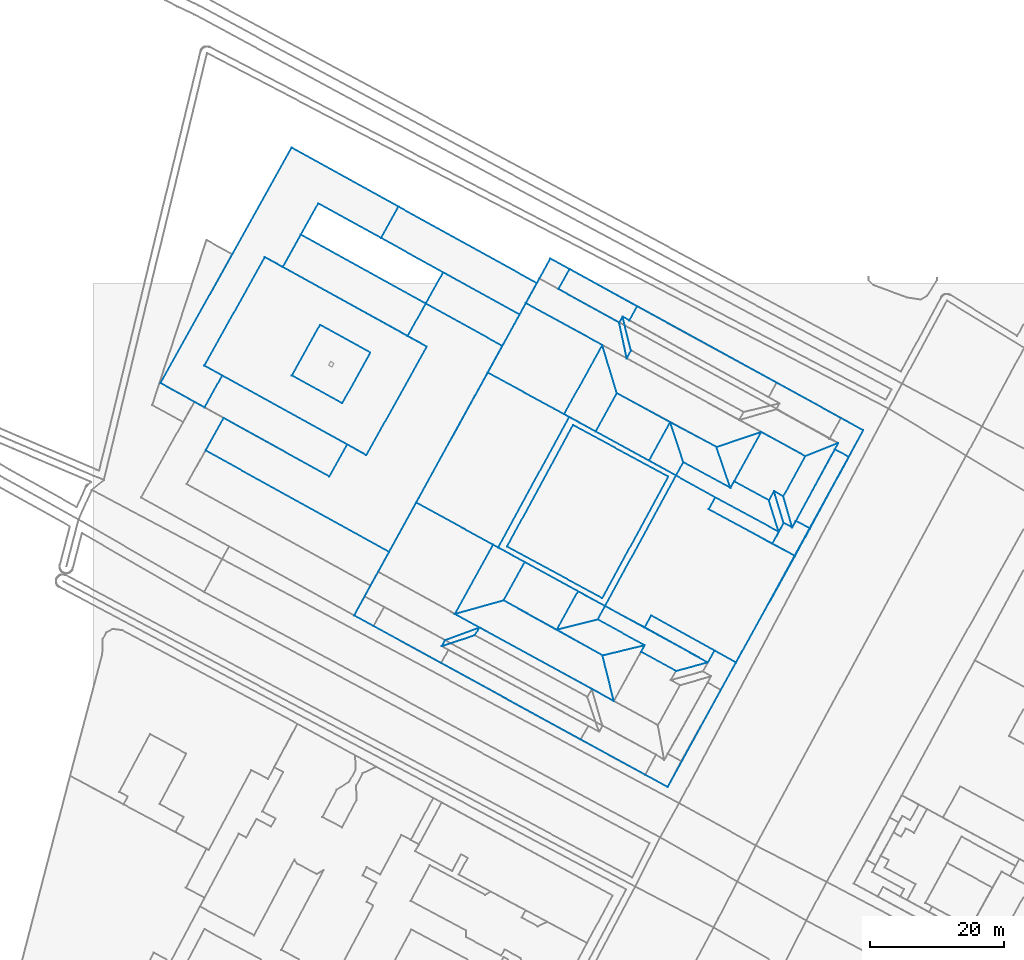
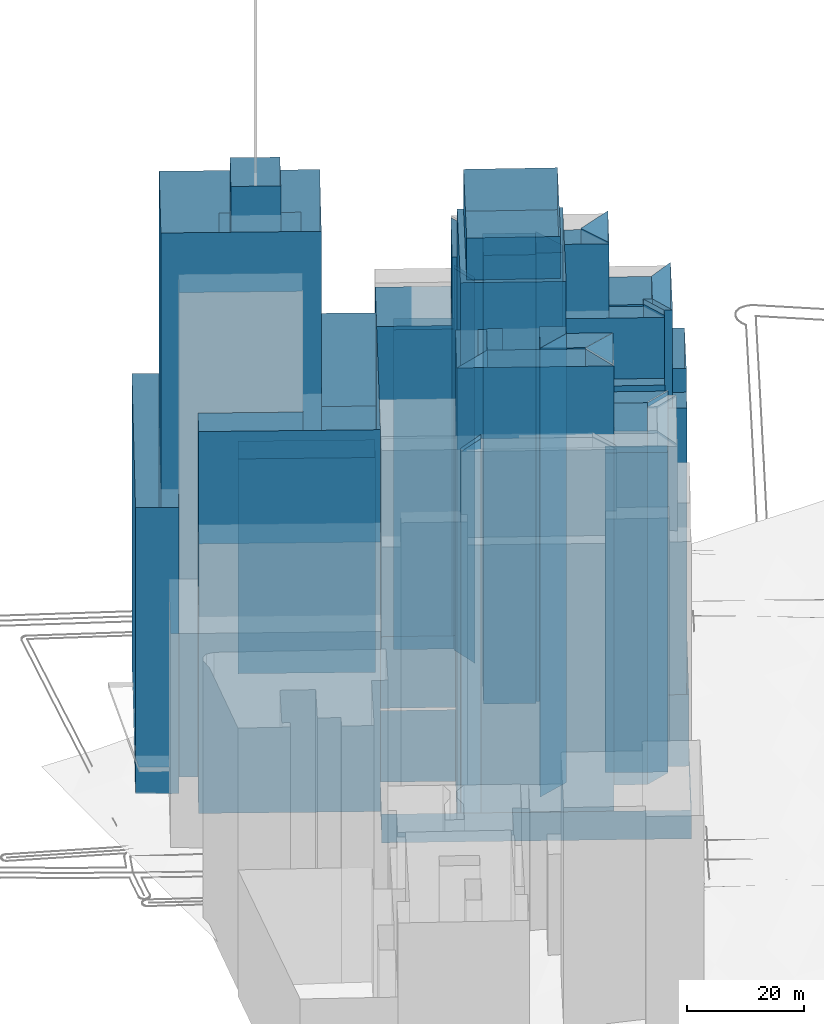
# Not in any storey, part 30 of 80: 36 walls.
"""IFC4 building model written with IfcOpenShell, lengths in metres."""

from ifc_helpers import new_model, si_unit, frame, origin_with_axes, place, context, subcontext, project, spatial, polygons, element, save


model = new_model("IFC4")

# Units and contexts
model_context = context("Model", 3, precision=1e-05, world=origin_with_axes())
body_context = subcontext(model_context, "Body", "Model", "MODEL_VIEW")
ifc_project = project(units=[si_unit("AREAUNIT", "SQUARE_METRE"), si_unit("LENGTHUNIT", "METRE")], contexts=[model_context])

# Sites, building
site_1_placement = place(None, origin_with_axes())
site_1 = spatial("IfcSite", under=ifc_project, at=site_1_placement, Name="Topoexport Site")
site_2_placement = place(site_1_placement, origin_with_axes())
site_2 = spatial("IfcSite", under=site_1, at=site_2_placement, Name="TPX_BATIMENTS")
building_1_placement = place(site_2_placement, frame((75.1201709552, 329.5761447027, 23.8507407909), z_axis=(0.0, 0.0, 1.0), x_axis=(1.0, 0.0, 0.0)))
building_1 = spatial("IfcBuilding", under=site_2, at=building_1_placement, Name="Batiment 149", CompositionType="ELEMENT")

# Wall
wall_1_placement = place(None, frame((75.1201709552, 329.5761447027, 23.8507407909), z_axis=(0.0, 0.0, 1.0), x_axis=(1.0, 0.0, 0.0)))
element("IfcWall", 1, at=wall_1_placement, inside=building_1, Name="Mur 0", context=body_context, shape_type="Tessellation", body=[
    polygons([(0.0, 0.0, 0.0), (7.0088017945, -3.8488115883, 0.0), (6.4714030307, -4.8209481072, 0.0), (11.6537066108, -7.6695578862, 0.0), (16.4083748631, -6.4041945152, 0.0), (1.0997322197, 1.9778684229, 0.0), (0.0, 0.0, 80.0), (7.0088017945, -3.8488115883, 80.0), (6.4714030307, -4.8209481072, 80.0), (11.6537066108, -7.6695578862, 80.0), (16.4083748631, -6.4041945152, 80.0), (1.0997322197, 1.9778684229, 80.0)], [[[8, 7, 2]], [[2, 7, 1]], [[9, 8, 3]], [[3, 8, 2]], [[10, 9, 4]], [[4, 9, 3]], [[11, 10, 5]], [[5, 10, 4]], [[7, 12, 1]], [[1, 12, 6]], [[12, 11, 6]], [[6, 11, 5]]]),
])

# Building
building_2_placement = place(site_2_placement, frame((53.8808145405, 330.3842681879, 23.5017044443), z_axis=(0.0, 0.0, 1.0), x_axis=(1.0, 0.0, 0.0)))
building_2 = spatial("IfcBuilding", under=site_2, at=building_2_placement, Name="Batiment 150", CompositionType="ELEMENT")

# Wall
wall_2_placement = place(None, frame((53.8808145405, 330.3842681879, 23.5017044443), z_axis=(0.0, 0.0, 1.0), x_axis=(1.0, 0.0, 0.0)))
element("IfcWall", 2, at=wall_2_placement, inside=building_2, Name="Mur 0", context=body_context, shape_type="Tessellation", body=[
    polygons([(0.0, 0.0, 0.0), (20.3973031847, -11.1652006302, 0.0), (23.6510455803, -12.9481890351, 0.0), (21.976830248, -6.1619484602, 0.0), (7.2275813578, 2.0268001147, 0.0), (0.0, 0.0, 94.0), (20.3973031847, -11.1652006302, 94.0), (23.6510455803, -12.9481890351, 94.0), (21.976830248, -6.1619484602, 94.0), (7.2275813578, 2.0268001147, 94.0)], [[[7, 6, 2]], [[2, 6, 1]], [[8, 7, 3]], [[3, 7, 2]], [[9, 8, 4]], [[4, 8, 3]], [[6, 10, 1]], [[1, 10, 5]], [[10, 9, 5]], [[5, 9, 4]]]),
])

# Building
building_3_placement = place(site_2_placement, frame((95.4278204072, 350.1179975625, 24.1757851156), z_axis=(0.0, 0.0, 1.0), x_axis=(1.0, 0.0, 0.0)))
building_3 = spatial("IfcBuilding", under=site_2, at=building_3_placement, Name="Batiment 277", CompositionType="ELEMENT")

# Wall
wall_3_placement = place(None, frame((95.4278204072, 350.1179975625, 24.1757851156), z_axis=(0.0, 0.0, 1.0), x_axis=(1.0, 0.0, 0.0)))
element("IfcWall", 3, at=wall_3_placement, inside=building_3, Name="Mur 0", context=body_context, shape_type="Tessellation", body=[
    polygons([(0.0, 0.0, 0.0), (5.1904741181, -2.8263004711, 0.0), (5.942800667, -1.4630871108, 0.0), (7.3274473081, -2.2130597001, 0.0), (10.6093444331, 3.7536652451, 0.0), (4.0340988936, 7.3410355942, 0.0), (0.0, 0.0, 80.0), (5.1904741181, -2.8263004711, 80.0), (5.942800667, -1.4630871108, 80.0), (7.3274473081, -2.2130597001, 80.0), (10.6093444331, 3.7536652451, 80.0), (4.0340988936, 7.3410355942, 80.0)], [[[8, 7, 2]], [[2, 7, 1]], [[9, 8, 3]], [[3, 8, 2]], [[10, 9, 4]], [[4, 9, 3]], [[11, 10, 5]], [[5, 10, 4]], [[7, 12, 1]], [[1, 12, 6]], [[12, 11, 6]], [[6, 11, 5]]]),
])

# Building
building_4_placement = place(site_2_placement, frame((100.6182945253, 347.2916970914, 24.2468793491), z_axis=(0.0, 0.0, 1.0), x_axis=(1.0, 0.0, 0.0)))
building_4 = spatial("IfcBuilding", under=site_2, at=building_4_placement, Name="Batiment 278", CompositionType="ELEMENT")

# Wall
wall_4_placement = place(None, frame((100.6182945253, 347.2916970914, 24.2468793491), z_axis=(0.0, 0.0, 1.0), x_axis=(1.0, 0.0, 0.0)))
element("IfcWall", 4, at=wall_4_placement, inside=building_4, Name="Mur 0", context=body_context, shape_type="Tessellation", body=[
    polygons([(0.0, 0.0, 0.0), (1.4724916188, -4.6791504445, 0.0), (2.1913155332, -3.3385306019, 0.0), (0.7523265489, 1.3632133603, 0.0), (0.0, 0.0, 80.0), (1.4724916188, -4.6791504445, 80.0), (2.1913155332, -3.3385306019, 80.0), (0.7523265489, 1.3632133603, 80.0)], [[[6, 5, 2]], [[2, 5, 1]], [[7, 6, 3]], [[3, 6, 2]], [[5, 8, 1]], [[1, 8, 4]], [[8, 7, 4]], [[4, 7, 3]]]),
])

# Building
building_5_placement = place(site_2_placement, frame((101.3706210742, 348.6549104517, 24.232721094), z_axis=(0.0, 0.0, 1.0), x_axis=(1.0, 0.0, 0.0)))
building_5 = spatial("IfcBuilding", under=site_2, at=building_5_placement, Name="Batiment 279", CompositionType="ELEMENT")

# Wall
wall_5_placement = place(None, frame((101.3706210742, 348.6549104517, 24.232721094), z_axis=(0.0, 0.0, 1.0), x_axis=(1.0, 0.0, 0.0)))
element("IfcWall", 5, at=wall_5_placement, inside=building_5, Name="Mur 0", context=body_context, shape_type="Tessellation", body=[
    polygons([(0.0, 0.0, 0.0), (1.4389889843, -4.7017439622, 0.0), (2.7214517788, -5.3751874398, 0.0), (1.3846466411, -0.7499725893, 0.0), (0.0, 0.0, 80.0), (1.4389889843, -4.7017439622, 80.0), (2.7214517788, -5.3751874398, 80.0), (1.3846466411, -0.7499725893, 80.0)], [[[6, 5, 2]], [[2, 5, 1]], [[7, 6, 3]], [[3, 6, 2]], [[5, 8, 1]], [[1, 8, 4]], [[8, 7, 4]], [[4, 7, 3]]]),
])

# Building
building_6_placement = place(site_2_placement, frame((104.621027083, 344.2517632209, 24.2058781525), z_axis=(0.0, 0.0, 1.0), x_axis=(1.0, 0.0, 0.0)))
building_6 = spatial("IfcBuilding", under=site_2, at=building_6_placement, Name="Batiment 280", CompositionType="ELEMENT")

# Wall
wall_6_placement = place(None, frame((104.621027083, 344.2517632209, 24.2058781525), z_axis=(0.0, 0.0, 1.0), x_axis=(1.0, 0.0, 0.0)))
element("IfcWall", 6, at=wall_6_placement, inside=building_6, Name="Mur 0", context=body_context, shape_type="Tessellation", body=[
    polygons([(0.0, 0.0, 0.0), (2.0982656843, -1.14136393, 0.0), (7.8835058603, 9.5062875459, 0.0), (5.7938113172, 10.6366471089, 0.0), (0.0, 0.0, 67.0), (2.0982656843, -1.14136393, 67.0), (7.8835058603, 9.5062875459, 67.0), (5.7938113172, 10.6366471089, 67.0)], [[[6, 5, 2]], [[2, 5, 1]], [[7, 6, 3]], [[3, 6, 2]], [[5, 8, 1]], [[1, 8, 4]], [[8, 7, 4]], [[4, 7, 3]]]),
])

# Building
building_7_placement = place(site_2_placement, frame((102.7552677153, 347.9049378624, 24.232721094), z_axis=(0.0, 0.0, 1.0), x_axis=(1.0, 0.0, 0.0)))
building_7 = spatial("IfcBuilding", under=site_2, at=building_7_placement, Name="Batiment 281", CompositionType="ELEMENT")

# Wall
wall_7_placement = place(None, frame((102.7552677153, 347.9049378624, 24.232721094), z_axis=(0.0, 0.0, 1.0), x_axis=(1.0, 0.0, 0.0)))
element("IfcWall", 7, at=wall_7_placement, inside=building_7, Name="Mur 0", context=body_context, shape_type="Tessellation", body=[
    polygons([(0.0, 0.0, 0.0), (1.3368051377, -4.6252148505, 0.0), (8.1803409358, 7.9332136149, 0.0), (3.281897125, 5.9667249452, 0.0), (0.0, 0.0, 80.0), (1.3368051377, -4.6252148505, 80.0), (8.1803409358, 7.9332136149, 80.0), (3.281897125, 5.9667249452, 80.0)], [[[6, 5, 2]], [[2, 5, 1]], [[7, 6, 3]], [[3, 6, 2]], [[5, 8, 1]], [[1, 8, 4]], [[8, 7, 4]], [[4, 7, 3]]]),
])

# Building
building_8_placement = place(site_2_placement, frame((101.1237847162, 340.8360563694, 24.2058781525), z_axis=(0.0, 0.0, 1.0), x_axis=(1.0, 0.0, 0.0)))
building_8 = spatial("IfcBuilding", under=site_2, at=building_8_placement, Name="Batiment 283", CompositionType="ELEMENT")

# Wall
wall_8_placement = place(None, frame((101.1237847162, 340.8360563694, 24.2058781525), z_axis=(0.0, 0.0, 1.0), x_axis=(1.0, 0.0, 0.0)))
element("IfcWall", 8, at=wall_8_placement, inside=building_8, Name="Mur 0", context=body_context, shape_type="Tessellation", body=[
    polygons([(0.0, 0.0, 0.0), (3.3638492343, -1.8150044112, 0.0), (5.5955080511, 2.2743429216, 0.0), (3.4972423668, 3.4157068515, 0.0), (2.9682881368, 2.4436666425, 0.0), (1.6858253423, 3.1171101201, 0.0), (0.0, 0.0, 62.0), (3.3638492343, -1.8150044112, 62.0), (5.5955080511, 2.2743429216, 62.0), (3.4972423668, 3.4157068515, 62.0), (2.9682881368, 2.4436666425, 62.0), (1.6858253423, 3.1171101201, 62.0)], [[[8, 7, 2]], [[2, 7, 1]], [[9, 8, 3]], [[3, 8, 2]], [[10, 9, 4]], [[4, 9, 3]], [[11, 10, 5]], [[5, 10, 4]], [[7, 12, 1]], [[1, 12, 6]], [[12, 11, 6]], [[6, 11, 5]]]),
])

# Building
building_9_placement = place(site_2_placement, frame((76.2199031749, 331.5540131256, 23.8161532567), z_axis=(0.0, 0.0, 1.0), x_axis=(1.0, 0.0, 0.0)))
building_9 = spatial("IfcBuilding", under=site_2, at=building_9_placement, Name="Batiment 284", CompositionType="ELEMENT")

# Wall
wall_9_placement = place(None, frame((76.2199031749, 331.5540131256, 23.8161532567), z_axis=(0.0, 0.0, 1.0), x_axis=(1.0, 0.0, 0.0)))
element("IfcWall", 9, at=wall_9_placement, inside=building_9, Name="Mur 0", context=body_context, shape_type="Tessellation", body=[
    polygons([(0.0, 0.0, 0.0), (5.886443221, -3.1512997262, 0.0), (6.870460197, -1.3857167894, 0.0), (19.4873212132, -8.4001453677, 0.0), (28.2677307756, 7.4670388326, 0.0), (15.4237759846, 14.4122011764, 0.0), (16.3907789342, 16.1886902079, 0.0), (10.5539558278, 19.4293756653, 0.0), (0.0, 0.0, 15.0), (5.886443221, -3.1512997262, 15.0), (6.870460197, -1.3857167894, 15.0), (19.4873212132, -8.4001453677, 15.0), (28.2677307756, 7.4670388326, 15.0), (15.4237759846, 14.4122011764, 15.0), (16.3907789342, 16.1886902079, 15.0), (10.5539558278, 19.4293756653, 15.0)], [[[10, 9, 2]], [[2, 9, 1]], [[11, 10, 3]], [[3, 10, 2]], [[12, 11, 4]], [[4, 11, 3]], [[13, 12, 5]], [[5, 12, 4]], [[14, 13, 6]], [[6, 13, 5]], [[15, 14, 7]], [[7, 14, 6]], [[9, 16, 1]], [[1, 16, 8]], [[16, 15, 8]], [[8, 15, 7]]]),
])

# Building
building_10_placement = place(site_2_placement, frame((91.6436791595, 345.966214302, 24.0394007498), z_axis=(0.0, 0.0, 1.0), x_axis=(1.0, 0.0, 0.0)))
building_10 = spatial("IfcBuilding", under=site_2, at=building_10_placement, Name="Batiment 285", CompositionType="ELEMENT")

# Wall
wall_10_placement = place(None, frame((91.6436791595, 345.966214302, 24.0394007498), z_axis=(0.0, 0.0, 1.0), x_axis=(1.0, 0.0, 0.0)))
element("IfcWall", 10, at=wall_10_placement, inside=building_10, Name="Mur 0", context=body_context, shape_type="Tessellation", body=[
    polygons([(0.0, 0.0, 0.0), (9.4801055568, -5.1301579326, 0.0), (10.4471069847, -3.353667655, 0.0), (0.9670029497, 1.7764890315, 0.0), (0.0, 0.0, 67.0), (9.4801055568, -5.1301579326, 67.0), (10.4471069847, -3.353667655, 67.0), (0.9670029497, 1.7764890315, 67.0)], [[[6, 5, 2]], [[2, 5, 1]], [[7, 6, 3]], [[3, 6, 2]], [[5, 8, 1]], [[1, 8, 4]], [[8, 7, 4]], [[4, 7, 3]]]),
])

# Building
building_11_placement = place(site_2_placement, frame((86.7738590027, 350.9833887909, 23.8161532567), z_axis=(0.0, 0.0, 1.0), x_axis=(1.0, 0.0, 0.0)))
building_11 = spatial("IfcBuilding", under=site_2, at=building_11_placement, Name="Batiment 286", CompositionType="ELEMENT")

# Wall
wall_11_placement = place(None, frame((86.7738590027, 350.9833887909, 23.8161532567), z_axis=(0.0, 0.0, 1.0), x_axis=(1.0, 0.0, 0.0)))
element("IfcWall", 11, at=wall_11_placement, inside=building_11, Name="Mur 0", context=body_context, shape_type="Tessellation", body=[
    polygons([(0.0, 0.0, 0.0), (5.8368231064, -3.2406854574, 0.0), (15.3169271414, -8.3708421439, 0.0), (13.8444355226, -3.6916916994, 0.0), (8.6539614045, -0.8653912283, 0.0), (8.1165662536, -1.8375288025, 0.0), (1.1079080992, 2.0001698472, 0.0), (0.0, 0.0, 80.0), (5.8368231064, -3.2406854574, 80.0), (15.3169271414, -8.3708421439, 80.0), (13.8444355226, -3.6916916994, 80.0), (8.6539614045, -0.8653912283, 80.0), (8.1165662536, -1.8375288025, 80.0), (1.1079080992, 2.0001698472, 80.0)], [[[9, 8, 2]], [[2, 8, 1]], [[10, 9, 3]], [[3, 9, 2]], [[11, 10, 4]], [[4, 10, 3]], [[12, 11, 5]], [[5, 11, 4]], [[13, 12, 6]], [[6, 12, 5]], [[8, 14, 1]], [[1, 14, 7]], [[14, 13, 7]], [[7, 13, 6]]]),
])

# Building
building_12_placement = place(site_2_placement, frame((92.8106246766, 355.2390469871, 24.0480155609), z_axis=(0.0, 0.0, 1.0), x_axis=(1.0, 0.0, 0.0)))
building_12 = spatial("IfcBuilding", under=site_2, at=building_12_placement, Name="Batiment 287", CompositionType="ELEMENT")

# Wall
wall_12_placement = place(None, frame((92.8106246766, 355.2390469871, 24.0480155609), z_axis=(0.0, 0.0, 1.0), x_axis=(1.0, 0.0, 0.0)))
element("IfcWall", 12, at=wall_12_placement, inside=building_12, Name="Mur 0", context=body_context, shape_type="Tessellation", body=[
    polygons([(0.0, 0.0, 0.0), (2.0798005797, -6.0931869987, 0.0), (6.6512946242, 2.2199861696, 0.0), (0.0, 0.0, 94.0), (2.0798005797, -6.0931869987, 94.0), (6.6512946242, 2.2199861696, 94.0)], [[[5, 4, 2]], [[2, 4, 1]], [[4, 6, 1]], [[1, 6, 3]], [[6, 5, 3]], [[3, 5, 2]]]),
])

# Building
building_13_placement = place(site_2_placement, frame((85.9220693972, 358.9116084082, 23.7825598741), z_axis=(0.0, 0.0, 1.0), x_axis=(1.0, 0.0, 0.0)))
building_13 = spatial("IfcBuilding", under=site_2, at=building_13_placement, Name="Batiment 290", CompositionType="ELEMENT")

# Wall
wall_13_placement = place(None, frame((85.9220693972, 358.9116084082, 23.7825598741), z_axis=(0.0, 0.0, 1.0), x_axis=(1.0, 0.0, 0.0)))
element("IfcWall", 13, at=wall_13_placement, inside=building_13, Name="Mur 0", context=body_context, shape_type="Tessellation", body=[
    polygons([(0.0, 0.0, 0.0), (1.9596977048, -5.9280497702, 0.0), (8.9683558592, -9.7657484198, 0.0), (6.8885552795, -3.6725614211, 0.0), (0.0, 0.0, 94.0), (1.9596977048, -5.9280497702, 94.0), (8.9683558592, -9.7657484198, 94.0), (6.8885552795, -3.6725614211, 94.0)], [[[6, 5, 2]], [[2, 5, 1]], [[7, 6, 3]], [[3, 6, 2]], [[5, 8, 1]], [[1, 8, 4]], [[8, 7, 4]], [[4, 7, 3]]]),
])

# Building
building_14_placement = place(site_2_placement, frame((82.7722366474, 353.201778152, 23.6513045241), z_axis=(0.0, 0.0, 1.0), x_axis=(1.0, 0.0, 0.0)))
building_14 = spatial("IfcBuilding", under=site_2, at=building_14_placement, Name="Batiment 291", CompositionType="ELEMENT")

# Wall
wall_14_placement = place(None, frame((82.7722366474, 353.201778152, 23.6513045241), z_axis=(0.0, 0.0, 1.0), x_axis=(1.0, 0.0, 0.0)))
element("IfcWall", 14, at=wall_14_placement, inside=building_14, Name="Mur 0", context=body_context, shape_type="Tessellation", body=[
    polygons([(0.0, 0.0, 0.0), (4.0016223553, -2.2183893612, 0.0), (5.1095304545, -0.218219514, 0.0), (3.1498327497, 5.7098302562, 0.0), (0.0, 0.0, 94.0), (4.0016223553, -2.2183893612, 94.0), (5.1095304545, -0.218219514, 94.0), (3.1498327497, 5.7098302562, 94.0)], [[[6, 5, 2]], [[2, 5, 1]], [[7, 6, 3]], [[3, 6, 2]], [[5, 8, 1]], [[1, 8, 4]], [[8, 7, 4]], [[4, 7, 3]]]),
])

# Building
building_15_placement = place(site_2_placement, frame((74.8292405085, 357.53934249, 23.2877785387), z_axis=(0.0, 0.0, 1.0), x_axis=(1.0, 0.0, 0.0)))
building_15 = spatial("IfcBuilding", under=site_2, at=building_15_placement, Name="Batiment 292", CompositionType="ELEMENT")

# Wall
wall_15_placement = place(None, frame((74.8292405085, 357.53934249, 23.2877785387), z_axis=(0.0, 0.0, 1.0), x_axis=(1.0, 0.0, 0.0)))
element("IfcWall", 15, at=wall_15_placement, inside=building_15, Name="Mur 0", context=body_context, shape_type="Tessellation", body=[
    polygons([(0.0, 0.0, 0.0), (7.9429961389, -4.337564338, 0.0), (11.0928288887, 1.3722659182, 0.0), (3.1497079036, 5.7209276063, 0.0), (0.0, 0.0, 94.0), (7.9429961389, -4.337564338, 94.0), (11.0928288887, 1.3722659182, 94.0), (3.1497079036, 5.7209276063, 94.0)], [[[6, 5, 2]], [[2, 5, 1]], [[7, 6, 3]], [[3, 6, 2]], [[5, 8, 1]], [[1, 8, 4]], [[8, 7, 4]], [[4, 7, 3]]]),
])

# Building
building_16_placement = place(site_2_placement, frame((38.8830888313, 330.1657711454, 23.4054188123), z_axis=(0.0, 0.0, 1.0), x_axis=(1.0, 0.0, 0.0)))
building_16 = spatial("IfcBuilding", under=site_2, at=building_16_placement, Name="Batiment 293", CompositionType="ELEMENT")

# Wall
wall_16_placement = place(None, frame((38.8830888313, 330.1657711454, 23.4054188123), z_axis=(0.0, 0.0, 1.0), x_axis=(1.0, 0.0, 0.0)))
element("IfcWall", 16, at=wall_16_placement, inside=building_16, Name="Mur 0", context=body_context, shape_type="Tessellation", body=[
    polygons([(0.0, 0.0, 0.0), (46.6647208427, -25.5263239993, 0.0), (75.778550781, 27.5586388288, 0.0), (29.2065067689, 53.1191580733, 0.0), (0.0, 0.0, 6.0), (46.6647208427, -25.5263239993, 6.0), (75.778550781, 27.5586388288, 6.0), (29.2065067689, 53.1191580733, 6.0)], [[[6, 5, 2]], [[2, 5, 1]], [[7, 6, 3]], [[3, 6, 2]], [[5, 8, 1]], [[1, 8, 4]], [[8, 7, 4]], [[4, 7, 3]]]),
])

# Building
building_17_placement = place(site_2_placement, frame((61.6318682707, 340.3996652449, 127.1275293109), z_axis=(0.0, 0.0, 1.0), x_axis=(1.0, 0.0, 0.0)))
building_17 = spatial("IfcBuilding", under=site_2, at=building_17_placement, Name="Batiment 294", CompositionType="ELEMENT")

# Wall
wall_17_placement = place(None, frame((61.6318682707, 340.3996652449, 127.1275293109), z_axis=(0.0, 0.0, 1.0), x_axis=(1.0, 0.0, 0.0)))
element("IfcWall", 17, at=wall_17_placement, inside=building_17, Name="Mur 0", context=body_context, shape_type="Tessellation", body=[
    polygons([(0.0, 0.0, 0.0), (14.1943048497, -7.651180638, 0.0), (24.0125535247, 10.4373802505, 0.0), (9.81827195, 18.0885419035, 0.0), (0.0, 0.0, 8.8000030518), (14.1943048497, -7.651180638, 8.8000030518), (24.0125535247, 10.4373802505, 8.8000030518), (9.81827195, 18.0885419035, 8.8000030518)], [[[6, 5, 2]], [[2, 5, 1]], [[7, 6, 3]], [[3, 6, 2]], [[5, 8, 1]], [[1, 8, 4]], [[8, 7, 4]], [[4, 7, 3]]]),
])

# Building
building_18_placement = place(site_2_placement, frame((60.3249272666, 340.2734696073, 23.0925662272), z_axis=(0.0, 0.0, 1.0), x_axis=(1.0, 0.0, 0.0)))
building_18 = spatial("IfcBuilding", under=site_2, at=building_18_placement, Name="Batiment 295", CompositionType="ELEMENT")

# Wall
wall_18_placement = place(None, frame((60.3249272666, 340.2734696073, 23.0925662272), z_axis=(0.0, 0.0, 1.0), x_axis=(1.0, 0.0, 0.0)))
element("IfcWall", 18, at=wall_18_placement, inside=building_18, Name="Mur 0", context=body_context, shape_type="Tessellation", body=[
    polygons([(0.0, 0.0, 0.0), (15.8949759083, -8.7194564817, 0.0), (26.4489317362, 10.7099191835, 0.0), (10.5539835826, 19.4293528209, 0.0), (0.0, 0.0, 104.0), (15.8949759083, -8.7194564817, 104.0), (26.4489317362, 10.7099191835, 104.0), (10.5539835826, 19.4293528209, 104.0)], [[[6, 5, 2]], [[2, 5, 1]], [[7, 6, 3]], [[3, 6, 2]], [[5, 8, 1]], [[1, 8, 4]], [[8, 7, 4]], [[4, 7, 3]]]),
])

# Building
building_19_placement = place(site_2_placement, frame((70.1312780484, 360.1160272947, 23.0634036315), z_axis=(0.0, 0.0, 1.0), x_axis=(1.0, 0.0, 0.0)))
building_19 = spatial("IfcBuilding", under=site_2, at=building_19_placement, Name="Batiment 296", CompositionType="ELEMENT")

# Wall
wall_19_placement = place(None, frame((70.1312780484, 360.1160272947, 23.0634036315), z_axis=(0.0, 0.0, 1.0), x_axis=(1.0, 0.0, 0.0)))
element("IfcWall", 19, at=wall_19_placement, inside=building_19, Name="Mur 0", context=body_context, shape_type="Tessellation", body=[
    polygons([(0.0, 0.0, 0.0), (4.6979624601, -2.5766848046, 0.0), (7.8476703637, 3.1442428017, 0.0), (5.6879917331, 10.3023230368, 0.0), (0.0, 0.0, 94.0), (4.6979624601, -2.5766848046, 94.0), (7.8476703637, 3.1442428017, 94.0), (5.6879917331, 10.3023230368, 94.0)], [[[6, 5, 2]], [[2, 5, 1]], [[7, 6, 3]], [[3, 6, 2]], [[5, 8, 1]], [[1, 8, 4]], [[8, 7, 4]], [[4, 7, 3]]]),
])

# Building
building_20_placement = place(site_2_placement, frame((48.1254357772, 346.9708364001, 22.6869888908), z_axis=(0.0, 0.0, 1.0), x_axis=(1.0, 0.0, 0.0)))
building_20 = spatial("IfcBuilding", under=site_2, at=building_20_placement, Name="Batiment 297", CompositionType="ELEMENT")

# Wall
wall_20_placement = place(None, frame((48.1254357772, 346.9708364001, 22.6869888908), z_axis=(0.0, 0.0, 1.0), x_axis=(1.0, 0.0, 0.0)))
element("IfcWall", 20, at=wall_20_placement, inside=building_20, Name="Mur 0", context=body_context, shape_type="Tessellation", body=[
    polygons([(0.0, 0.0, 0.0), (12.1994914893, -6.6973667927, 0.0), (22.753475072, 12.7319860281, 0.0), (10.6309973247, 19.3414111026, 0.0), (0.0, 0.0, 15.0), (12.1994914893, -6.6973667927, 15.0), (22.753475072, 12.7319860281, 15.0), (10.6309973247, 19.3414111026, 15.0)], [[[6, 5, 2]], [[2, 5, 1]], [[7, 6, 3]], [[3, 6, 2]], [[5, 8, 1]], [[1, 8, 4]], [[8, 7, 4]], [[4, 7, 3]]]),
])

# Building
building_21_placement = place(site_2_placement, frame((53.8808145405, 330.3842681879, 23.2090927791), z_axis=(0.0, 0.0, 1.0), x_axis=(1.0, 0.0, 0.0)))
building_21 = spatial("IfcBuilding", under=site_2, at=building_21_placement, Name="Batiment 299", CompositionType="ELEMENT")

# Wall
wall_21_placement = place(None, frame((53.8808145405, 330.3842681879, 23.2090927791), z_axis=(0.0, 0.0, 1.0), x_axis=(1.0, 0.0, 0.0)))
element("IfcWall", 21, at=wall_21_placement, inside=building_21, Name="Mur 0", context=body_context, shape_type="Tessellation", body=[
    polygons([(0.0, 0.0, 0.0), (7.2275813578, 2.0268001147, 0.0), (10.3860090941, 7.7256178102, 0.0), (5.6964786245, 10.3024073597, 0.0), (0.0, 0.0, 94.0), (7.2275813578, 2.0268001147, 94.0), (10.3860090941, 7.7256178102, 94.0), (5.6964786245, 10.3024073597, 94.0)], [[[6, 5, 2]], [[2, 5, 1]], [[7, 6, 3]], [[3, 6, 2]], [[5, 8, 1]], [[1, 8, 4]], [[8, 7, 4]], [[4, 7, 3]]]),
])

# Building
building_22_placement = place(site_2_placement, frame((69.0516677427, 328.0512876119, 23.6953649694), z_axis=(0.0, 0.0, 1.0), x_axis=(1.0, 0.0, 0.0)))
building_22 = spatial("IfcBuilding", under=site_2, at=building_22_placement, Name="Batiment 300", CompositionType="ELEMENT")

# Wall
wall_22_placement = place(None, frame((69.0516677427, 328.0512876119, 23.6953649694), z_axis=(0.0, 0.0, 1.0), x_axis=(1.0, 0.0, 0.0)))
element("IfcWall", 22, at=wall_22_placement, inside=building_22, Name="Mur 0", context=body_context, shape_type="Tessellation", body=[
    polygons([(0.0, 0.0, 0.0), (6.0685032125, 1.5248570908, 0.0), (7.1682354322, 3.5027255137, 0.0), (3.1498546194, 5.7098238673, 0.0), (0.0, 0.0, 94.0), (6.0685032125, 1.5248570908, 94.0), (7.1682354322, 3.5027255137, 94.0), (3.1498546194, 5.7098238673, 94.0)], [[[6, 5, 2]], [[2, 5, 1]], [[7, 6, 3]], [[3, 6, 2]], [[5, 8, 1]], [[1, 8, 4]], [[8, 7, 4]], [[4, 7, 3]]]),
])

# Building
building_23_placement = place(site_2_placement, frame((61.1083958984, 332.4110683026, 23.390927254), z_axis=(0.0, 0.0, 1.0), x_axis=(1.0, 0.0, 0.0)))
building_23 = spatial("IfcBuilding", under=site_2, at=building_23_placement, Name="Batiment 301", CompositionType="ELEMENT")

# Wall
wall_23_placement = place(None, frame((61.1083958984, 332.4110683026, 23.390927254), z_axis=(0.0, 0.0, 1.0), x_axis=(1.0, 0.0, 0.0)))
element("IfcWall", 23, at=wall_23_placement, inside=building_23, Name="Mur 0", context=body_context, shape_type="Tessellation", body=[
    polygons([(0.0, 0.0, 0.0), (7.9432718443, -4.3597806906, 0.0), (11.0931264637, 1.3500431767, 0.0), (3.1584277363, 5.6988176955, 0.0), (0.0, 0.0, 94.0), (7.9432718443, -4.3597806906, 94.0), (11.0931264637, 1.3500431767, 94.0), (3.1584277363, 5.6988176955, 94.0)], [[[6, 5, 2]], [[2, 5, 1]], [[7, 6, 3]], [[3, 6, 2]], [[5, 8, 1]], [[1, 8, 4]], [[8, 7, 4]], [[4, 7, 3]]]),
])

# Building
building_24_placement = place(site_2_placement, frame((16.7688335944, 354.7226631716, 22.4076126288), z_axis=(0.0, 0.0, 1.0), x_axis=(1.0, 0.0, 0.0)))
building_24 = spatial("IfcBuilding", under=site_2, at=building_24_placement, Name="Batiment 306", CompositionType="ELEMENT")

# Wall
wall_24_placement = place(None, frame((16.7688335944, 354.7226631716, 22.4076126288), z_axis=(0.0, 0.0, 1.0), x_axis=(1.0, 0.0, 0.0)))
element("IfcWall", 24, at=wall_24_placement, inside=building_24, Name="Mur 0", context=body_context, shape_type="Tessellation", body=[
    polygons([(0.0, 0.0, 0.0), (27.3056955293, -15.1041300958, 0.0), (44.1700510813, 15.5562215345, 0.0), (32.7770605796, 21.8632672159, 0.0), (30.0813661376, 17.0247000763, 0.0), (32.9359432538, 15.4480094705, 0.0), (23.9392342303, -0.6991752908, 0.0), (21.0760840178, 0.8885216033, 0.0), (18.4215440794, -3.8607450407, 0.0), (2.6874090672, 4.8273569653, 0.0), (0.0, 0.0, 80.0), (27.3056955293, -15.1041300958, 80.0), (44.1700510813, 15.5562215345, 80.0), (32.7770605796, 21.8632672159, 80.0), (30.0813661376, 17.0247000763, 80.0), (32.9359432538, 15.4480094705, 80.0), (23.9392342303, -0.6991752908, 80.0), (21.0760840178, 0.8885216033, 80.0), (18.4215440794, -3.8607450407, 80.0), (2.6874090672, 4.8273569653, 80.0)], [[[12, 11, 2]], [[2, 11, 1]], [[13, 12, 3]], [[3, 12, 2]], [[14, 13, 4]], [[4, 13, 3]], [[15, 14, 5]], [[5, 14, 4]], [[16, 15, 6]], [[6, 15, 5]], [[17, 16, 7]], [[7, 16, 6]], [[18, 17, 8]], [[8, 17, 7]], [[19, 18, 9]], [[9, 18, 8]], [[11, 20, 1]], [[1, 20, 10]], [[20, 19, 10]], [[10, 19, 9]]]),
])

# Building
building_25_placement = place(site_2_placement, frame((28.2698359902, 382.0233366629, 22.5121474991), z_axis=(0.0, 0.0, 1.0), x_axis=(1.0, 0.0, 0.0)))
building_25 = spatial("IfcBuilding", under=site_2, at=building_25_placement, Name="Batiment 307", CompositionType="ELEMENT")

# Wall
wall_25_placement = place(None, frame((28.2698359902, 382.0233366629, 22.5121474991), z_axis=(0.0, 0.0, 1.0), x_axis=(1.0, 0.0, 0.0)))
element("IfcWall", 25, at=wall_25_placement, inside=building_25, Name="Mur 0", context=body_context, shape_type="Tessellation", body=[
    polygons([(0.0, 0.0, 0.0), (18.5803637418, -10.275973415, 0.0), (21.2760581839, -5.4374062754, 0.0), (2.6958312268, 4.8274595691, 0.0), (0.0, 0.0, 105.0), (18.5803637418, -10.275973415, 105.0), (21.2760581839, -5.4374062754, 105.0), (2.6958312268, 4.8274595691, 105.0)], [[[6, 5, 2]], [[2, 5, 1]], [[7, 6, 3]], [[3, 6, 2]], [[5, 8, 1]], [[1, 8, 4]], [[8, 7, 4]], [[4, 7, 3]]]),
])

# Building
building_26_placement = place(site_2_placement, frame((10.068288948, 364.747963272, 22.7304030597), z_axis=(0.0, 0.0, 1.0), x_axis=(1.0, 0.0, 0.0)))
building_26 = spatial("IfcBuilding", under=site_2, at=building_26_placement, Name="Batiment 308", CompositionType="ELEMENT")

# Wall
wall_26_placement = place(None, frame((10.068288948, 364.747963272, 22.7304030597), z_axis=(0.0, 0.0, 1.0), x_axis=(1.0, 0.0, 0.0)))
element("IfcWall", 26, at=wall_26_placement, inside=building_26, Name="Mur 0", context=body_context, shape_type="Tessellation", body=[
    polygons([(0.0, 0.0, 0.0), (6.5418195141, -3.6211429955, 0.0), (9.196238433, 1.1392176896, 0.0), (6.5370782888, 2.6071649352, 0.0), (15.5253815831, 18.7542222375, 0.0), (18.2015470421, 17.2753733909, 0.0), (23.4855455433, 26.7514080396, 0.0), (32.8138870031, 21.5972119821, 0.0), (35.4104872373, 26.245889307, 0.0), (19.514901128, 35.0320145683, 0.0), (0.0, 0.0, 60.0), (6.5418195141, -3.6211429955, 60.0), (9.196238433, 1.1392176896, 60.0), (6.5370782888, 2.6071649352, 60.0), (15.5253815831, 18.7542222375, 60.0), (18.2015470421, 17.2753733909, 60.0), (23.4855455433, 26.7514080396, 60.0), (32.8138870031, 21.5972119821, 60.0), (35.4104872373, 26.245889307, 60.0), (19.514901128, 35.0320145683, 60.0)], [[[12, 11, 2]], [[2, 11, 1]], [[13, 12, 3]], [[3, 12, 2]], [[14, 13, 4]], [[4, 13, 3]], [[15, 14, 5]], [[5, 14, 4]], [[16, 15, 6]], [[6, 15, 5]], [[17, 16, 7]], [[7, 16, 6]], [[18, 17, 8]], [[8, 17, 7]], [[19, 18, 9]], [[9, 18, 8]], [[11, 20, 1]], [[1, 20, 10]], [[20, 19, 10]], [[10, 19, 9]]]),
])

# Building
building_27_placement = place(site_2_placement, frame((16.6053672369, 367.3551282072, 22.4076126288), z_axis=(0.0, 0.0, 1.0), x_axis=(1.0, 0.0, 0.0)))
building_27 = spatial("IfcBuilding", under=site_2, at=building_27_placement, Name="Batiment 309", CompositionType="ELEMENT")

# Wall
wall_27_placement = place(None, frame((16.6053672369, 367.3551282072, 22.4076126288), z_axis=(0.0, 0.0, 1.0), x_axis=(1.0, 0.0, 0.0)))
element("IfcWall", 27, at=wall_27_placement, inside=building_27, Name="Mur 0", context=body_context, shape_type="Tessellation", body=[
    polygons([(0.0, 0.0, 0.0), (24.1027005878, -13.3316403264, 0.0), (33.0994096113, 2.8155444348, 0.0), (8.9883032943, 16.1470573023, 0.0), (0.0, 0.0, 114.0), (24.1027005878, -13.3316403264, 114.0), (33.0994096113, 2.8155444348, 114.0), (8.9883032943, 16.1470573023, 114.0)], [[[6, 5, 2]], [[2, 5, 1]], [[7, 6, 3]], [[3, 6, 2]], [[5, 8, 1]], [[1, 8, 4]], [[8, 7, 4]], [[4, 7, 3]]]),
])

# Building
building_28_placement = place(site_2_placement, frame((29.6218946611, 365.8963536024, 22.4832836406), z_axis=(0.0, 0.0, 1.0), x_axis=(1.0, 0.0, 0.0)))
building_28 = spatial("IfcBuilding", under=site_2, at=building_28_placement, Name="Batiment 311", CompositionType="ELEMENT")

# Wall
wall_28_placement = place(None, frame((29.6218946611, 365.8963536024, 22.4832836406), z_axis=(0.0, 0.0, 1.0), x_axis=(1.0, 0.0, 0.0)))
element("IfcWall", 28, at=wall_28_placement, inside=building_28, Name="Mur 0", context=body_context, shape_type="Tessellation", body=[
    polygons([(0.0, 0.0, 0.0), (7.5017517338, -4.1428926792, 0.0), (11.6857620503, 3.3774859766, 0.0), (4.192455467, 7.5204723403, 0.0), (0.0, 0.0, 120.0), (7.5017517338, -4.1428926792, 120.0), (11.6857620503, 3.3774859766, 120.0), (4.192455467, 7.5204723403, 120.0)], [[[6, 5, 2]], [[2, 5, 1]], [[7, 6, 3]], [[3, 6, 2]], [[5, 8, 1]], [[1, 8, 4]], [[8, 7, 4]], [[4, 7, 3]]]),
])

# Building
building_29_placement = place(site_2_placement, frame((42.8821759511, 386.3451752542, 23.3606694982), z_axis=(0.0, 0.0, 1.0), x_axis=(1.0, 0.0, 0.0)))
building_29 = spatial("IfcBuilding", under=site_2, at=building_29_placement, Name="Batiment 313", CompositionType="ELEMENT")

# Wall
wall_29_placement = place(None, frame((42.8821759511, 386.3451752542, 23.3606694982), z_axis=(0.0, 0.0, 1.0), x_axis=(1.0, 0.0, 0.0)))
element("IfcWall", 29, at=wall_29_placement, inside=building_29, Name="Mur 0", context=body_context, shape_type="Tessellation", body=[
    polygons([(0.0, 0.0, 0.0), (20.6194143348, -11.4068981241, 0.0), (23.1902990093, -6.725205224, 0.0), (2.5966002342, 4.6486773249, 0.0), (0.0, 0.0, 45.0), (20.6194143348, -11.4068981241, 45.0), (23.1902990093, -6.725205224, 45.0), (2.5966002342, 4.6486773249, 45.0)], [[[6, 5, 2]], [[2, 5, 1]], [[7, 6, 3]], [[3, 6, 2]], [[5, 8, 1]], [[1, 8, 4]], [[8, 7, 4]], [[4, 7, 3]]]),
])

# Building
building_30_placement = place(site_2_placement, frame((49.545894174, 376.5859303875, 22.872031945), z_axis=(0.0, 0.0, 1.0), x_axis=(1.0, 0.0, 0.0)))
building_30 = spatial("IfcBuilding", under=site_2, at=building_30_placement, Name="Batiment 314", CompositionType="ELEMENT")

# Wall
wall_30_placement = place(None, frame((49.545894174, 376.5859303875, 22.872031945), z_axis=(0.0, 0.0, 1.0), x_axis=(1.0, 0.0, 0.0)))
element("IfcWall", 30, at=wall_30_placement, inside=building_30, Name="Mur 0", context=body_context, shape_type="Tessellation", body=[
    polygons([(0.0, 0.0, 0.0), (11.3929905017, -6.3070456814, 0.0), (13.9556961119, -1.6476532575, 0.0), (2.5882884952, 4.637480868, 0.0), (0.0, 0.0, 60.0), (11.3929905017, -6.3070456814, 60.0), (13.9556961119, -1.6476532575, 60.0), (2.5882884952, 4.637480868, 60.0)], [[[6, 5, 2]], [[2, 5, 1]], [[7, 6, 3]], [[3, 6, 2]], [[5, 8, 1]], [[1, 8, 4]], [[8, 7, 4]], [[4, 7, 3]]]),
])

# Building
building_31_placement = place(site_2_placement, frame((58.756433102, 366.3122475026, 22.6869888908), z_axis=(0.0, 0.0, 1.0), x_axis=(1.0, 0.0, 0.0)))
building_31 = spatial("IfcBuilding", under=site_2, at=building_31_placement, Name="Batiment 315", CompositionType="ELEMENT")

# Wall
wall_31_placement = place(None, frame((58.756433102, 366.3122475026, 22.6869888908), z_axis=(0.0, 0.0, 1.0), x_axis=(1.0, 0.0, 0.0)))
element("IfcWall", 31, at=wall_31_placement, inside=building_31, Name="Mur 0", context=body_context, shape_type="Tessellation", body=[
    polygons([(0.0, 0.0, 0.0), (11.3748449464, -6.196220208, 0.0), (17.0628366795, 4.1061028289, 0.0), (5.6791754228, 10.3355185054, 0.0), (0.0, 0.0, 80.0), (11.3748449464, -6.196220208, 80.0), (17.0628366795, 4.1061028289, 80.0), (5.6791754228, 10.3355185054, 80.0)], [[[6, 5, 2]], [[2, 5, 1]], [[7, 6, 3]], [[3, 6, 2]], [[5, 8, 1]], [[1, 8, 4]], [[8, 7, 4]], [[4, 7, 3]]]),
])

# Building
building_32_placement = place(site_2_placement, frame((69.2904287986, 378.7358456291, 23.7854365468), z_axis=(0.0, 0.0, 1.0), x_axis=(1.0, 0.0, 0.0)))
building_32 = spatial("IfcBuilding", under=site_2, at=building_32_placement, Name="Batiment 316", CompositionType="ELEMENT")

# Wall
wall_32_placement = place(None, frame((69.2904287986, 378.7358456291, 23.7854365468), z_axis=(0.0, 0.0, 1.0), x_axis=(1.0, 0.0, 0.0)))
element("IfcWall", 32, at=wall_32_placement, inside=building_32, Name="Mur 0", context=body_context, shape_type="Tessellation", body=[
    polygons([(0.0, 0.0, 0.0), (9.0394844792, -4.9909724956, 0.0), (9.5440215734, -4.0969334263, 0.0), (10.5380936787, -4.6516049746, 0.0), (11.6874272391, -2.5843414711, 0.0), (1.653744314, 2.9724011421, 0.0), (0.0, 0.0, 67.0), (9.0394844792, -4.9909724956, 67.0), (9.5440215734, -4.0969334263, 67.0), (10.5380936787, -4.6516049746, 67.0), (11.6874272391, -2.5843414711, 67.0), (1.653744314, 2.9724011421, 67.0)], [[[8, 7, 2]], [[2, 7, 1]], [[9, 8, 3]], [[3, 8, 2]], [[10, 9, 4]], [[4, 9, 3]], [[11, 10, 5]], [[5, 10, 4]], [[7, 12, 1]], [[1, 12, 6]], [[12, 11, 6]], [[6, 11, 5]]]),
])

# Building
building_33_placement = place(site_2_placement, frame((78.3299132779, 373.7448731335, 23.5718630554), z_axis=(0.0, 0.0, 1.0), x_axis=(1.0, 0.0, 0.0)))
building_33 = spatial("IfcBuilding", under=site_2, at=building_33_placement, Name="Batiment 317", CompositionType="ELEMENT")

# Wall
wall_33_placement = place(None, frame((78.3299132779, 373.7448731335, 23.5718630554), z_axis=(0.0, 0.0, 1.0), x_axis=(1.0, 0.0, 0.0)))
element("IfcWall", 33, at=wall_33_placement, inside=building_33, Name="Mur 0", context=body_context, shape_type="Tessellation", body=[
    polygons([(0.0, 0.0, 0.0), (1.1423428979, -5.3269190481, 0.0), (1.7446817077, -4.1319833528, 0.0), (0.5045370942, 0.8940390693, 0.0), (0.0, 0.0, 80.0), (1.1423428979, -5.3269190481, 80.0), (1.7446817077, -4.1319833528, 80.0), (0.5045370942, 0.8940390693, 80.0)], [[[6, 5, 2]], [[2, 5, 1]], [[7, 6, 3]], [[3, 6, 2]], [[5, 8, 1]], [[1, 8, 4]], [[8, 7, 4]], [[4, 7, 3]]]),
])

# Building
building_34_placement = place(site_2_placement, frame((82.1063463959, 328.4027133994, 24.0355533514), z_axis=(0.0, 0.0, 1.0), x_axis=(1.0, 0.0, 0.0)))
building_34 = spatial("IfcBuilding", under=site_2, at=building_34_placement, Name="Batiment 324", CompositionType="ELEMENT")

# Wall
wall_34_placement = place(None, frame((82.1063463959, 328.4027133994, 24.0355533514), z_axis=(0.0, 0.0, 1.0), x_axis=(1.0, 0.0, 0.0)))
element("IfcWall", 34, at=wall_34_placement, inside=building_34, Name="Mur 0", context=body_context, shape_type="Tessellation", body=[
    polygons([(0.0, 0.0, 0.0), (9.4221994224, -5.2307632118, 0.0), (10.4062149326, -3.465179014, 0.0), (0.984016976, 1.7655829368, 0.0), (0.0, 0.0, 67.0), (9.4221994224, -5.2307632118, 67.0), (10.4062149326, -3.465179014, 67.0), (0.984016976, 1.7655829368, 67.0)], [[[6, 5, 2]], [[2, 5, 1]], [[7, 6, 3]], [[3, 6, 2]], [[5, 8, 1]], [[1, 8, 4]], [[8, 7, 4]], [[4, 7, 3]]]),
])

# Building
building_35_placement = place(site_2_placement, frame((69.0516677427, 328.0512876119, 23.794695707), z_axis=(0.0, 0.0, 1.0), x_axis=(1.0, 0.0, 0.0)))
building_35 = spatial("IfcBuilding", under=site_2, at=building_35_placement, Name="Batiment 328", CompositionType="ELEMENT")

# Wall
wall_35_placement = place(None, frame((69.0516677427, 328.0512876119, 23.794695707), z_axis=(0.0, 0.0, 1.0), x_axis=(1.0, 0.0, 0.0)))
element("IfcWall", 35, at=wall_35_placement, inside=building_35, Name="Mur 0", context=body_context, shape_type="Tessellation", body=[
    polygons([(0.0, 0.0, 0.0), (6.8059770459, -3.8289678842, 0.0), (13.077305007, -2.3239544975, 0.0), (6.0685032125, 1.5248570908, 0.0), (0.0, 0.0, 94.0), (6.8059770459, -3.8289678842, 94.0), (13.077305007, -2.3239544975, 94.0), (6.0685032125, 1.5248570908, 94.0)], [[[6, 5, 2]], [[2, 5, 1]], [[7, 6, 3]], [[3, 6, 2]], [[5, 8, 1]], [[1, 8, 4]], [[8, 7, 4]], [[4, 7, 3]]]),
])

# Building
building_36_placement = place(site_2_placement, frame((51.9190164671, 325.5875262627, 23.5481954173), z_axis=(0.0, 0.0, 1.0), x_axis=(1.0, 0.0, 0.0)))
building_36 = spatial("IfcBuilding", under=site_2, at=building_36_placement, Name="Batiment 331", CompositionType="ELEMENT")

# Wall
wall_36_placement = place(None, frame((51.9190164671, 325.5875262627, 23.5481954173), z_axis=(0.0, 0.0, 1.0), x_axis=(1.0, 0.0, 0.0)))
element("IfcWall", 36, at=wall_36_placement, inside=building_36, Name="Mur 0", context=body_context, shape_type="Tessellation", body=[
    polygons([(0.0, 0.0, 0.0), (4.9275340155, 1.6448242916, 0.0), (5.6147975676, 2.7963347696, 0.0), (0.4875344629, 0.9049419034, 0.0), (0.0, 0.0, 80.0), (4.9275340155, 1.6448242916, 80.0), (5.6147975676, 2.7963347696, 80.0), (0.4875344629, 0.9049419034, 80.0)], [[[6, 5, 2]], [[2, 5, 1]], [[7, 6, 3]], [[3, 6, 2]], [[5, 8, 1]], [[1, 8, 4]], [[8, 7, 4]], [[4, 7, 3]]]),
])

save(model, "model.ifc")
